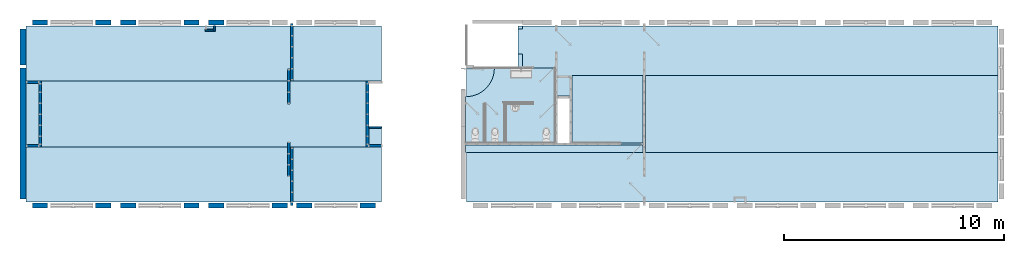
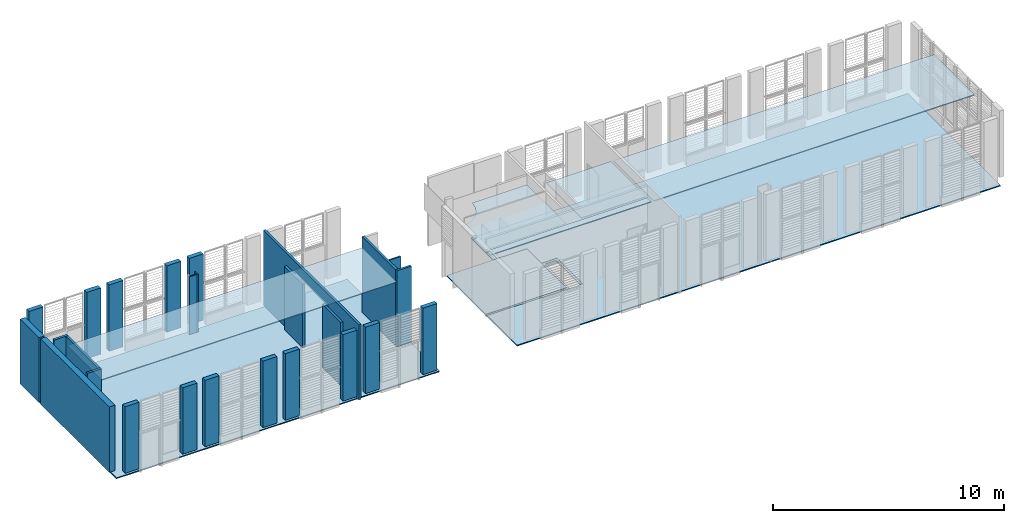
# One storey, part 3 of 8: 26 walls, 10 slabs, 2 openings.
"""IFC2X3 building model written with IfcOpenShell, lengths in metres."""

from ifc_helpers import new_model, entity, si_unit, converted_unit, derived_unit, direction, frame, frame_2d, origin, origin_2d_with_axis, place, context, subcontext, project, spatial, polyline, circle_curve, parameter, trimmed, segment, composite_curve, rectangle, outline, extrude, material, layer, layer_set, layer_usage, type_object, element, save


model = new_model("IFC2X3")

# Units and contexts
model_context = context("Model", 3, precision=1e-05, world=origin(), true_north=direction((6.12303176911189e-17, 1.0)))
body_context = subcontext(model_context, "Body", "Model", "MODEL_VIEW")
ifc_project = project(units=[si_unit("LENGTHUNIT", "METRE"), si_unit("AREAUNIT", "SQUARE_METRE"), si_unit("VOLUMEUNIT", "CUBIC_METRE"), converted_unit("PLANEANGLEUNIT", "DEGREE", entity("IfcRatioMeasure", 0.0174532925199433), si_unit("PLANEANGLEUNIT", "RADIAN"), dimensions=[0, 0, 0, 0, 0, 0, 0]), si_unit("MASSUNIT", "GRAM", prefix="KILO"), derived_unit("MASSDENSITYUNIT", [(si_unit("MASSUNIT", "GRAM", prefix="KILO"), 1), (si_unit("LENGTHUNIT", "METRE"), -3)]), si_unit("TIMEUNIT", "SECOND"), si_unit("FREQUENCYUNIT", "HERTZ"), si_unit("THERMODYNAMICTEMPERATUREUNIT", "DEGREE_CELSIUS"), derived_unit("THERMALTRANSMITTANCEUNIT", [(si_unit("MASSUNIT", "GRAM", prefix="KILO"), 1), (si_unit("THERMODYNAMICTEMPERATUREUNIT", "KELVIN"), -1), (si_unit("TIMEUNIT", "SECOND"), -3)]), derived_unit("VOLUMETRICFLOWRATEUNIT", [(si_unit("LENGTHUNIT", "METRE"), 3), (si_unit("TIMEUNIT", "SECOND"), -1)]), si_unit("ELECTRICCURRENTUNIT", "AMPERE"), si_unit("ELECTRICVOLTAGEUNIT", "VOLT"), si_unit("POWERUNIT", "WATT"), si_unit("FORCEUNIT", "NEWTON", prefix="KILO"), si_unit("ILLUMINANCEUNIT", "LUX"), si_unit("LUMINOUSFLUXUNIT", "LUMEN"), si_unit("LUMINOUSINTENSITYUNIT", "CANDELA"), derived_unit("USERDEFINED", [(si_unit("MASSUNIT", "GRAM", prefix="KILO"), -1), (si_unit("LENGTHUNIT", "METRE"), -2), (si_unit("TIMEUNIT", "SECOND"), 3), (si_unit("LUMINOUSFLUXUNIT", "LUMEN"), 1)]), derived_unit("LINEARVELOCITYUNIT", [(si_unit("LENGTHUNIT", "METRE"), 1), (si_unit("TIMEUNIT", "SECOND"), -1)]), si_unit("PRESSUREUNIT", "PASCAL"), derived_unit("USERDEFINED", [(si_unit("LENGTHUNIT", "METRE"), -2), (si_unit("MASSUNIT", "GRAM", prefix="KILO"), 1), (si_unit("TIMEUNIT", "SECOND"), -2)])], contexts=[model_context])

# Site, building, storey
site_placement = place(None, origin())
site = spatial("IfcSite", under=ifc_project, at=site_placement, Name="Surface", CompositionType="ELEMENT")
building_placement = place(site_placement, origin())
building = spatial("IfcBuilding", under=site, at=building_placement, Name="ExPREF", CompositionType="ELEMENT")
storey_placement = place(building_placement, origin())
storey = spatial("IfcBuildingStorey", under=building, at=storey_placement, Name="RDC", CompositionType="ELEMENT", Elevation=-6.89719131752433e-12)

# Slab, opening
ifc_material_1 = material(Name="AA-isolant plancher")
ifc_layer_1 = layer(ifc_material_1, 0.045)
ifc_layer_set_1 = layer_set([ifc_layer_1], Name="Sol:A-isolant 4.5 cm")
ifc_layer_usage_1 = layer_usage(ifc_layer_set_1, "AXIS3", "POSITIVE", 0.0)
slab_1_placement = place(storey_placement, frame((45.4197436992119, -193.209651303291, -0.0549999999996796)))
slab_1 = element("IfcSlab", 1, at=slab_1_placement, inside=storey, material=ifc_layer_usage_1, Name="Sol:A-isolant 4.5 cm", ObjectType="Sol:A-isolant 4.5 cm", PredefinedType="FLOOR", context=body_context, shape_type="SweptSolid", body=[
    extrude(outline(polyline([(-12.0699999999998, 4.00158152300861), (-12.0699999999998, -4.00158152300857), (12.0699999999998, -4.00158152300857), (12.0699999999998, 2.0915815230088), (9.73999999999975, 2.0915815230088), (9.73999999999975, 4.00158152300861), (-12.0699999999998, 4.00158152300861)])), frame((12.0699999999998, 4.00158152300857, 0.045), z_axis=(0.0, 0.0, -1.0), x_axis=(-1.0, 0.0, 0.0)), (0.0, 0.0, 1.0), 0.045),
])
opening_1_placement = place(slab_1_placement, frame((4.40000000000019, 3.5395407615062, 0.0449999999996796)))
element("IfcOpeningElement", 2, at=opening_1_placement, cuts=slab_1, Name="Sol:A-isolant 4.5 cm:2", ObjectType="Opening", context=body_context, shape_type="SweptSolid", body=[
    extrude(rectangle(XDim=2.35908152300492, YDim=0.555000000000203, at=origin_2d_with_axis()), frame((0.0, 0.0, 0.0), z_axis=(0.0, 0.0, -1.0), x_axis=(0.0, -1.0, 0.0)), (0.0, 0.0, 1.0), 0.045),
])

# Slabs
ifc_material_2 = material(Name="AA-sol souple")
ifc_layer_2 = layer(ifc_material_2, 0.01)
ifc_layer_set_2 = layer_set([ifc_layer_2], Name="Sol:A-sol souple")
ifc_layer_usage_2 = layer_usage(ifc_layer_set_2, "AXIS3", "POSITIVE", 0.0)
slab_2_placement = place(storey_placement, origin())
element("IfcSlab", 3, at=slab_2_placement, inside=storey, material=ifc_layer_usage_2, Name="Sol:A-sol souple", ObjectType="Sol:A-sol souple", PredefinedType="FLOOR", context=body_context, shape_type="SweptSolid", body=[
    extrude(outline(polyline([(-5.15940219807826, -5.7614285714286), (-2.57032051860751, -5.7614285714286), (-2.57032051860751, -0.978928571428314), (-0.332820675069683, -0.978928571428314), (-0.332820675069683, -1.74392857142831), (0.931260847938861, -1.74392857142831), (0.931260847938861, -3.23142857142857), (1.57876084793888, -3.23142857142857), (1.57876084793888, -3.43142857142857), (2.70876084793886, -3.43142857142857), (2.70876084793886, -3.23142857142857), (2.84376084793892, -3.23142857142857), (2.84376084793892, 18.3785714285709), (-5.15940219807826, 18.3785714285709), (-5.15940219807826, -5.7614285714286)])), frame((51.1811722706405, -188.050249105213, 0.0), z_axis=(0.0, 0.0, -1.0), x_axis=(0.0, 1.0, 0.0)), (0.0, 0.0, 1.0), 0.01),
])
ifc_layer_usage_3 = layer_usage(ifc_layer_set_1, "AXIS3", "POSITIVE", 0.0)
slab_3_placement = place(storey_placement, origin())
element("IfcSlab", 4, at=slab_3_placement, inside=storey, material=ifc_layer_usage_3, Name="Sol:A-isolant 4.5 cm", ObjectType="Sol:A-isolant 4.5 cm", PredefinedType="FLOOR", context=body_context, shape_type="SweptSolid", body=[
    extrude(outline(polyline([(-4.20633160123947, -11.9594999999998), (3.79683144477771, -11.9594999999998), (3.79683144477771, 4.18049999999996), (1.17925007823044, 4.18049999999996), (1.17925007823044, 3.59849999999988), (-0.769749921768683, 3.59849999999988), (-0.769749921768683, 4.18049999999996), (-4.20633160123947, 4.18049999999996), (-4.20633160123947, -11.9594999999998)])), frame((37.3792436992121, -189.003319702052, -0.01), z_axis=(0.0, 0.0, -1.0), x_axis=(0.0, 1.0, 0.0)), (0.0, 0.0, 1.0), 0.045),
])
ifc_layer_usage_4 = layer_usage(ifc_layer_set_2, "AXIS3", "POSITIVE", 0.0)
slab_4_placement = place(storey_placement, origin())
element("IfcSlab", 5, at=slab_4_placement, inside=storey, material=ifc_layer_usage_4, Name="Sol:A-sol souple", ObjectType="Sol:A-sol souple", PredefinedType="FLOOR", context=body_context, shape_type="SweptSolid", body=[
    extrude(outline(polyline([(-4.00158162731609, -8.06949999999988), (-1.49999994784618, -8.06949999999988), (-1.49999994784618, -7.37449999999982), (1.50000005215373, -7.37449999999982), (1.50000005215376, -8.06949999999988), (4.00158141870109, -8.06949999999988), (4.00158141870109, 8.07049999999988), (1.50000005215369, 8.07049999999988), (1.50000005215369, 7.37249999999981), (-1.49999994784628, 7.37249999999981), (-1.49999994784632, 8.07049999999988), (-4.00158162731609, 8.07049999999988), (-4.00158162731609, -8.06949999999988)])), frame((33.4892436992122, -189.208069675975, 0.0), z_axis=(0.0, 0.0, -1.0), x_axis=(0.0, 1.0, 0.0)), (0.0, 0.0, 1.0), 0.01),
])
ifc_material_3 = material(Name="AA-laine bois")
ifc_layer_3 = layer(ifc_material_3, 0.05)
ifc_layer_set_3 = layer_set([ifc_layer_3], Name="Sol:A-laine de bois 5cm")
ifc_layer_usage_5 = layer_usage(ifc_layer_set_3, "AXIS3", "POSITIVE", 0.0)
slab_5_placement = place(storey_placement, frame((26.1197436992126, -190.959651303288, 3.3700000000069)))
element("IfcSlab", 6, at=slab_5_placement, inside=storey, material=ifc_layer_usage_5, Name="Sol:A-laine de bois 5cm", ObjectType="Sol:A-laine de bois 5cm", PredefinedType="FLOOR", context=body_context, shape_type="SweptSolid", body=[
    extrude(rectangle(XDim=2.99000000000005, YDim=14.7419999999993, at=frame_2d((14.3489999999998, 0.000790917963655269), x_axis=(0.0, -1.0))), frame((21.7199999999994, 1.75079076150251, 0.0499999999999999), z_axis=(0.0, 0.0, -1.0), x_axis=(-1.0, 0.0, 0.0)), (0.0, 0.0, 1.0), 0.05),
])
slab_6_placement = place(storey_placement, frame((26.1197436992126, -190.959651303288, 3.3700000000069)))
element("IfcSlab", 7, at=slab_6_placement, inside=storey, material=ifc_layer_usage_5, Name="Sol:A-laine de bois 5cm:2", ObjectType="Sol:A-laine de bois 5cm", PredefinedType="FLOOR", context=body_context, shape_type="SweptSolid", body=[
    extrude(rectangle(XDim=3.50158152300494, YDim=16.0119999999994, at=frame_2d((-13.7139999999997, 0.0), x_axis=(0.0, -1.0))), frame((21.7199999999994, 1.75079076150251, 0.0499999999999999), z_axis=(0.0, 0.0, -1.0), x_axis=(-1.0, 0.0, 0.0)), (0.0, 0.0, 1.0), 0.05),
])
slab_7_placement = place(storey_placement, frame((26.1197436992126, -190.959651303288, 3.3700000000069)))
element("IfcSlab", 8, at=slab_7_placement, inside=storey, material=ifc_layer_usage_5, Name="Sol:A-laine de bois 5cm:3", ObjectType="Sol:A-laine de bois 5cm", PredefinedType="FLOOR", context=body_context, shape_type="SweptSolid", body=[
    extrude(rectangle(XDim=8.05200000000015, YDim=0.339081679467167, at=frame_2d((-1.56599999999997, -1.58124992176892), x_axis=(1.0, 0.0))), frame((21.7199999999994, 1.75079076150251, 0.0499999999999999), z_axis=(0.0, 0.0, -1.0), x_axis=(-1.0, 0.0, 0.0)), (0.0, 0.0, 1.0), 0.05),
])
slab_8_placement = place(storey_placement, frame((26.1197436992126, -190.959651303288, 3.3700000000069)))
element("IfcSlab", 9, at=slab_8_placement, inside=storey, material=ifc_layer_usage_5, Name="Sol:A-laine de bois 5cm:4", ObjectType="Sol:A-laine de bois 5cm", PredefinedType="FLOOR", context=body_context, shape_type="SweptSolid", body=[
    extrude(rectangle(XDim=3.05749984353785, YDim=3.22949999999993, at=frame_2d((-3.97725000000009, 0.222040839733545), x_axis=(0.0, -1.0))), frame((21.7199999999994, 1.75079076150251, 0.0499999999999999), z_axis=(0.0, 0.0, -1.0), x_axis=(-1.0, 0.0, 0.0)), (0.0, 0.0, 1.0), 0.05),
])
ifc_material_4 = material(Name="AA-fermacell peint")
ifc_layer_4 = layer(ifc_material_4, 0.0125)
ifc_layer_set_4 = layer_set([ifc_layer_4], Name="Sol:A-BA13 12.5mm")
ifc_layer_usage_6 = layer_usage(ifc_layer_set_4, "AXIS3", "POSITIVE", 0.0)
slab_9_placement = place(storey_placement, origin())
element("IfcSlab", 10, at=slab_9_placement, inside=storey, material=ifc_layer_usage_6, Name="Sol:A-BA13 12.5mm", ObjectType="Sol:A-BA13 12.5mm", PredefinedType="FLOOR", context=body_context, shape_type="SweptSolid", body=[
    extrude(outline(composite_curve([segment(polyline([(-1.77794881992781, -1.88300000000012), (0.318632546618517, -1.88300000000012)]), True, "CONTINUOUS"), segment(trimmed(circle_curve(frame_2d((1.61863254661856, -1.88300000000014), x_axis=(-1.0, 0.0)), 1.30000000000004), [parameter(270.000000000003)], [parameter(0.0)], True, "PARAMETER"), False, "CONTINUOUS"), segment(polyline([(1.61863254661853, -0.583000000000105), (1.61863254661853, 2.17450000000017)]), True, "CONTINUOUS"), segment(polyline([(1.61863254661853, 2.17450000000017), (-1.77794881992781, 2.17450000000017)]), True, "CONTINUOUS"), segment(polyline([(-1.77794881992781, 2.17450000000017), (-1.77794881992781, -1.88300000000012)]), True, "CONTINUOUS")], self_intersect=False)), frame((47.2627436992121, -188.737620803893, 3.3825000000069), z_axis=(0.0, 0.0, -1.0), x_axis=(0.0, 1.0, 0.0)), (0.0, 0.0, 1.0), 0.0124999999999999),
])
ifc_material_5 = material(Name="AA-sol carrelage")
ifc_layer_5 = layer(ifc_material_5, 0.01)
ifc_layer_set_5 = layer_set([ifc_layer_5], Name="Sol:A-carrelage sol")
ifc_layer_usage_7 = layer_usage(ifc_layer_set_5, "AXIS3", "POSITIVE", 0.0)
slab_10_placement = place(storey_placement, origin())
element("IfcSlab", 11, at=slab_10_placement, inside=storey, material=ifc_layer_usage_7, Name="Sol:A-carrelage sol", ObjectType="Sol:A-carrelage sol", PredefinedType="FLOOR", context=body_context, shape_type="SweptSolid", body=[
    extrude(rectangle(XDim=3.39658136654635, YDim=4.0175000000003, at=frame_2d((0.0, -4.44089209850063e-15), x_axis=(1.0, 0.0))), frame((47.4284936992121, -188.817278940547, 0.0), z_axis=(0.0, 0.0, -1.0), x_axis=(0.0, 1.0, 0.0)), (0.0, 0.0, 1.0), 0.01),
])

# Walls
ifc_material_6 = material(Name="AA-mur cloison finition")
ifc_layer_6 = layer(ifc_material_6, 0.018)
ifc_layer_7 = layer(ifc_material_1, 0.08)
ifc_layer_8 = layer(ifc_material_6, 0.018)
ifc_layer_set_6 = layer_set([ifc_layer_6, ifc_layer_7, ifc_layer_8], Name="Mur de base:A-cloison CP 11.6 cm")
ifc_layer_usage_8 = layer_usage(ifc_layer_set_6, "AXIS2", "NEGATIVE", 0.058)
wall_type_1 = type_object("IfcWallType", Name="Mur de base:A-cloison CP 11.6 cm", PredefinedType="STANDARD", material=ifc_layer_set_6)
wall_1_placement = place(storey_placement, frame((26.1177436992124, -190.650069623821, -0.01), z_axis=(0.0, 0.0, 1.0), x_axis=(-1.0, 0.0, 0.0)))
element("IfcWallStandardCase", 12, at=wall_1_placement, inside=storey, type_object=wall_type_1, material=ifc_layer_usage_8, Name="Mur de base:A-cloison CP 11.6 cm", ObjectType="Mur de base:A-cloison CP 11.6 cm", context=body_context, shape_type="SweptSolid", body=[
    extrude(rectangle(XDim=0.698000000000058, YDim=0.115999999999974, at=frame_2d((0.349000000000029, 0.0), x_axis=(-1.0, 0.0))), origin(), (0.0, 0.0, 1.0), 4.00999999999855),
])
ifc_layer_usage_9 = layer_usage(ifc_layer_set_6, "AXIS2", "NEGATIVE", 0.058)
wall_2_placement = place(storey_placement, frame((26.1177436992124, -187.766069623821, -0.01), z_axis=(0.0, 0.0, 1.0), x_axis=(-1.0, 0.0, 0.0)))
element("IfcWallStandardCase", 13, at=wall_2_placement, inside=storey, type_object=wall_type_1, material=ifc_layer_usage_9, Name="Mur de base:A-cloison CP 11.6 cm", ObjectType="Mur de base:A-cloison CP 11.6 cm", context=body_context, shape_type="SweptSolid", body=[
    extrude(rectangle(XDim=0.698000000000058, YDim=0.115999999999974, at=frame_2d((0.349000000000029, 0.0), x_axis=(-1.0, 0.0))), origin(), (0.0, 0.0, 1.0), 4.0200000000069),
])
ifc_layer_usage_10 = layer_usage(ifc_layer_set_6, "AXIS2", "POSITIVE", -0.058)
wall_3_placement = place(storey_placement, frame((40.861743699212, -190.650069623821, 0.0)))
element("IfcWallStandardCase", 14, at=wall_3_placement, inside=storey, type_object=wall_type_1, material=ifc_layer_usage_10, Name="Mur de base:A-cloison CP 11.6 cm", ObjectType="Mur de base:A-cloison CP 11.6 cm", context=body_context, shape_type="SweptSolid", body=[
    extrude(rectangle(XDim=0.737999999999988, YDim=0.115999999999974, at=frame_2d((0.368999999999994, 0.0), x_axis=(-1.0, 0.0))), origin(), (0.0, 0.0, 1.0), 4.0000000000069),
])
ifc_layer_usage_11 = layer_usage(ifc_layer_set_6, "AXIS2", "POSITIVE", -0.058)
wall_4_placement = place(storey_placement, frame((40.919743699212, -187.708069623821, -0.01), z_axis=(0.0, 0.0, 1.0), x_axis=(0.0, -1.0, 0.0)))
element("IfcWallStandardCase", 15, at=wall_4_placement, inside=storey, type_object=wall_type_1, material=ifc_layer_usage_11, Name="Mur de base:A-cloison CP 11.6 cm", ObjectType="Mur de base:A-cloison CP 11.6 cm", context=body_context, shape_type="SweptSolid", body=[
    extrude(rectangle(XDim=2.884, YDim=0.116000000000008, at=frame_2d((1.442, 0.0), x_axis=(-1.0, 0.0))), origin(), (0.0, 0.0, 1.0), 4.0200000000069),
])
ifc_layer_usage_12 = layer_usage(ifc_layer_set_6, "AXIS2", "NEGATIVE", 0.058)
wall_5_placement = place(storey_placement, frame((26.0597436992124, -187.824069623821, -0.01), z_axis=(0.0, 0.0, 1.0), x_axis=(0.0, -1.0, 0.0)))
element("IfcWallStandardCase", 16, at=wall_5_placement, inside=storey, type_object=wall_type_1, material=ifc_layer_usage_12, Name="Mur de base:A-cloison CP 11.6 cm", ObjectType="Mur de base:A-cloison CP 11.6 cm", context=body_context, shape_type="SweptSolid", body=[
    extrude(rectangle(XDim=2.76799999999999, YDim=0.116, at=frame_2d((1.384, 0.0), x_axis=(-1.0, 0.0))), origin(), (0.0, 0.0, 1.0), 4.0200000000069),
])

# Wall, opening
ifc_layer_usage_13 = layer_usage(ifc_layer_set_6, "AXIS2", "POSITIVE", -0.058)
wall_6_placement = place(storey_placement, frame((37.4897436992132, -185.106488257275, 0.0), z_axis=(0.0, 0.0, 1.0), x_axis=(0.0, -1.0, 0.0)))
wall_6 = element("IfcWallStandardCase", 17, at=wall_6_placement, inside=storey, type_object=wall_type_1, material=ifc_layer_usage_13, Name="Mur de base:A-cloison CP 11.6 cm", ObjectType="Mur de base:A-cloison CP 11.6 cm", context=body_context, shape_type="SweptSolid", body=[
    extrude(rectangle(XDim=8.25316304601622, YDim=0.116, at=frame_2d((4.12658152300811, 5.20417042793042e-17), x_axis=(-1.0, 0.0))), origin(), (0.0, 0.0, 1.0), 3.9600000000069),
])
opening_2_placement = place(wall_6_placement, frame((5.60158136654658, -1.582, 0.0), z_axis=(0.0, 0.0, 1.0), x_axis=(0.0, 1.0, 0.0)))
element("IfcOpeningElement", 18, at=opening_2_placement, cuts=wall_6, Name="Mur de base:A-cloison CP 11.6 cm", ObjectType="Opening", context=body_context, shape_type="SweptSolid", body=[
    extrude(rectangle(XDim=3.36999999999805, YDim=3.00000000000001, at=frame_2d((-3.33066907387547e-16, 0.0), x_axis=(1.0, 0.0))), frame((0.0, 1.50000000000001, 1.68499999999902), z_axis=(1.0, 0.0, 0.0), x_axis=(0.0, 0.0, 1.0)), (0.0, 0.0, 1.0), 3.048),
])

# Walls
ifc_layer_usage_14 = layer_usage(ifc_layer_set_6, "AXIS2", "NEGATIVE", 0.058)
wall_7_placement = place(storey_placement, frame((37.3462379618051, -187.168069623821, 0.0200000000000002), z_axis=(0.0, 0.0, 1.0), x_axis=(0.0, -1.0, 0.0)))
element("IfcWallStandardCase", 19, at=wall_7_placement, inside=storey, type_object=wall_type_1, material=ifc_layer_usage_14, Name="Mur de base:A-cloison CP 11.6 cm", ObjectType="Mur de base:A-cloison CP 11.6 cm", context=body_context, shape_type="SweptSolid", body=[
    extrude(rectangle(XDim=1.5800000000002, YDim=0.116, at=frame_2d((0.790000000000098, 0.0), x_axis=(-1.0, 0.0))), origin(), (0.0, 0.0, 1.0), 3.33),
])
ifc_layer_usage_15 = layer_usage(ifc_layer_set_6, "AXIS2", "POSITIVE", -0.058)
wall_8_placement = place(storey_placement, frame((37.3462379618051, -192.048069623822, 0.0200000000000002), z_axis=(0.0, 0.0, 1.0), x_axis=(0.0, 1.0, 0.0)))
element("IfcWallStandardCase", 20, at=wall_8_placement, inside=storey, type_object=wall_type_1, material=ifc_layer_usage_15, Name="Mur de base:A-cloison CP 11.6 cm", ObjectType="Mur de base:A-cloison CP 11.6 cm", context=body_context, shape_type="SweptSolid", body=[
    extrude(rectangle(XDim=1.5800000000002, YDim=0.116, at=frame_2d((0.790000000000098, 7.52869988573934e-16), x_axis=(-1.0, 0.0))), origin(), (0.0, 0.0, 1.0), 3.33),
])
ifc_layer_9 = layer(ifc_material_4, 0.0125)
ifc_layer_10 = layer(ifc_material_1, 0.045)
ifc_layer_11 = layer(ifc_material_4, 0.0125)
ifc_layer_set_7 = layer_set([ifc_layer_9, ifc_layer_10, ifc_layer_11], Name="Mur de base:Générique - Int. 70 mm")
ifc_layer_usage_16 = layer_usage(ifc_layer_set_7, "AXIS2", "POSITIVE", -0.035)
wall_type_2 = type_object("IfcWallType", Name="Mur de base:Générique - Int. 70 mm", PredefinedType="STANDARD", material=ifc_layer_set_7)
wall_9_placement = place(storey_placement, frame((40.977743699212, -189.80806962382, 0.0)))
element("IfcWallStandardCase", 21, at=wall_9_placement, inside=storey, type_object=wall_type_2, material=ifc_layer_usage_16, Name="Mur de base:Générique - Int. 70 mm", ObjectType="Mur de base:Générique - Int. 70 mm", context=body_context, shape_type="SweptSolid", body=[
    extrude(rectangle(XDim=0.582000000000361, YDim=0.0700000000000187, at=frame_2d((0.291000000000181, 0.0), x_axis=(-1.0, 0.0))), origin(), (0.0, 0.0, 1.0), 4.0000000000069),
])
ifc_layer_usage_17 = layer_usage(ifc_layer_set_7, "AXIS2", "NEGATIVE", 0.035)
wall_10_placement = place(storey_placement, frame((33.9647432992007, -185.20648794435, 0.0), z_axis=(0.0, 0.0, 1.0), x_axis=(0.0, -1.0, 0.0)))
element("IfcWallStandardCase", 22, at=wall_10_placement, inside=storey, type_object=wall_type_2, material=ifc_layer_usage_17, Name="Mur de base:Générique - Int. 70 mm", ObjectType="Mur de base:Générique - Int. 70 mm", context=body_context, shape_type="SweptSolid", body=[
    extrude(rectangle(XDim=0.229999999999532, YDim=0.0700000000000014, at=frame_2d((0.114999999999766, 0.0), x_axis=(-1.0, 0.0))), origin(), (0.0, 0.0, 1.0), 3.05),
])
ifc_layer_usage_18 = layer_usage(ifc_layer_set_7, "AXIS2", "NEGATIVE", 0.035)
wall_11_placement = place(storey_placement, frame((33.5597436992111, -185.401487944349, 0.0)))
element("IfcWallStandardCase", 23, at=wall_11_placement, inside=storey, type_object=wall_type_2, material=ifc_layer_usage_18, Name="Mur de base:Générique - Int. 70 mm", ObjectType="Mur de base:Générique - Int. 70 mm", context=body_context, shape_type="SweptSolid", body=[
    extrude(rectangle(XDim=0.369999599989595, YDim=0.0700000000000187, at=frame_2d((0.184999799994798, 0.0), x_axis=(-1.0, 0.0))), origin(), (0.0, 0.0, 1.0), 3.05),
])
ifc_material_7 = material(Name="AA-BTC")
ifc_layer_12 = layer(ifc_material_7, 0.22)
ifc_layer_set_8 = layer_set([ifc_layer_12], Name="Mur de base:A-prémur BTC")
ifc_layer_usage_19 = layer_usage(ifc_layer_set_8, "AXIS2", "POSITIVE", -0.11)
wall_type_3 = type_object("IfcWallType", Name="Mur de base:A-prémur BTC", PredefinedType="STANDARD", material=ifc_layer_set_8)
wall_12_placement = place(storey_placement, frame((41.2797436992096, -193.359651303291, 0.300000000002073), z_axis=(0.0, 0.0, 1.0), x_axis=(-1.0, 0.0, 0.0)))
element("IfcWallStandardCase", 24, at=wall_12_placement, inside=storey, type_object=wall_type_3, material=ifc_layer_usage_19, Name="Mur de base:A-prémur BTC", ObjectType="Mur de base:A-prémur BTC", context=body_context, shape_type="SweptSolid", body=[
    extrude(rectangle(XDim=0.699999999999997, YDim=0.220000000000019, at=frame_2d((0.349999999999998, 0.0), x_axis=(-1.0, 0.0))), origin(), (0.0, 0.0, 1.0), 3.51000000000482),
])
ifc_layer_usage_20 = layer_usage(ifc_layer_set_8, "AXIS2", "POSITIVE", -0.11)
wall_13_placement = place(storey_placement, frame((37.2797436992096, -193.359651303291, 0.300000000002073), z_axis=(0.0, 0.0, 1.0), x_axis=(-1.0, 0.0, 0.0)))
element("IfcWallStandardCase", 25, at=wall_13_placement, inside=storey, type_object=wall_type_3, material=ifc_layer_usage_20, Name="Mur de base:A-prémur BTC", ObjectType="Mur de base:A-prémur BTC", context=body_context, shape_type="SweptSolid", body=[
    extrude(rectangle(XDim=0.700000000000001, YDim=0.220000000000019, at=frame_2d((0.350000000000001, 0.0), x_axis=(-1.0, 0.0))), origin(), (0.0, 0.0, 1.0), 3.51000000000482),
])
ifc_layer_usage_21 = layer_usage(ifc_layer_set_8, "AXIS2", "POSITIVE", -0.11)
wall_14_placement = place(storey_placement, frame((33.2797436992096, -193.359651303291, 0.300000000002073), z_axis=(0.0, 0.0, 1.0), x_axis=(-1.0, 0.0, 0.0)))
element("IfcWallStandardCase", 26, at=wall_14_placement, inside=storey, type_object=wall_type_3, material=ifc_layer_usage_21, Name="Mur de base:A-prémur BTC", ObjectType="Mur de base:A-prémur BTC", context=body_context, shape_type="SweptSolid", body=[
    extrude(rectangle(XDim=0.700000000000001, YDim=0.220000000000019, at=frame_2d((0.350000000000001, 0.0), x_axis=(-1.0, 0.0))), origin(), (0.0, 0.0, 1.0), 3.51000000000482),
])
ifc_layer_usage_22 = layer_usage(ifc_layer_set_8, "AXIS2", "POSITIVE", -0.11)
wall_15_placement = place(storey_placement, frame((29.2797436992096, -193.359651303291, 0.300000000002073), z_axis=(0.0, 0.0, 1.0), x_axis=(-1.0, 0.0, 0.0)))
element("IfcWallStandardCase", 27, at=wall_15_placement, inside=storey, type_object=wall_type_3, material=ifc_layer_usage_22, Name="Mur de base:A-prémur BTC", ObjectType="Mur de base:A-prémur BTC", context=body_context, shape_type="SweptSolid", body=[
    extrude(rectangle(XDim=0.700000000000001, YDim=0.220000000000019, at=frame_2d((0.350000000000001, 0.0), x_axis=(-1.0, 0.0))), origin(), (0.0, 0.0, 1.0), 3.51000000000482),
])
ifc_layer_usage_23 = layer_usage(ifc_layer_set_8, "AXIS2", "NEGATIVE", 0.11)
wall_16_placement = place(storey_placement, frame((33.2797436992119, -185.056487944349, 0.300000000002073), z_axis=(0.0, 0.0, 1.0), x_axis=(-1.0, 0.0, 0.0)))
element("IfcWallStandardCase", 28, at=wall_16_placement, inside=storey, type_object=wall_type_3, material=ifc_layer_usage_23, Name="Mur de base:A-prémur BTC", ObjectType="Mur de base:A-prémur BTC", context=body_context, shape_type="SweptSolid", body=[
    extrude(rectangle(XDim=0.700000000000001, YDim=0.220000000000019, at=frame_2d((0.350000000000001, -2.13024042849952e-15), x_axis=(-1.0, 0.0))), origin(), (0.0, 0.0, 1.0), 3.51000000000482),
])
ifc_layer_usage_24 = layer_usage(ifc_layer_set_8, "AXIS2", "NEGATIVE", 0.11)
wall_17_placement = place(storey_placement, frame((29.2797436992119, -185.056487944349, 0.300000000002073), z_axis=(0.0, 0.0, 1.0), x_axis=(-1.0, 0.0, 0.0)))
element("IfcWallStandardCase", 29, at=wall_17_placement, inside=storey, type_object=wall_type_3, material=ifc_layer_usage_24, Name="Mur de base:A-prémur BTC", ObjectType="Mur de base:A-prémur BTC", context=body_context, shape_type="SweptSolid", body=[
    extrude(rectangle(XDim=0.700000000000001, YDim=0.220000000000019, at=frame_2d((0.350000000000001, -2.13024042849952e-15), x_axis=(-1.0, 0.0))), origin(), (0.0, 0.0, 1.0), 3.51000000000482),
])
ifc_layer_usage_25 = layer_usage(ifc_layer_set_8, "AXIS2", "NEGATIVE", 0.11)
wall_18_placement = place(storey_placement, frame((25.6997436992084, -193.359651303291, 0.300000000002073)))
element("IfcWallStandardCase", 30, at=wall_18_placement, inside=storey, type_object=wall_type_3, material=ifc_layer_usage_25, Name="Mur de base:A-prémur BTC", ObjectType="Mur de base:A-prémur BTC", context=body_context, shape_type="SweptSolid", body=[
    extrude(rectangle(XDim=0.700000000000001, YDim=0.220000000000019, at=frame_2d((0.350000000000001, 0.0), x_axis=(-1.0, 0.0))), origin(), (0.0, 0.0, 1.0), 3.51000000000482),
])
ifc_layer_usage_26 = layer_usage(ifc_layer_set_8, "AXIS2", "NEGATIVE", 0.11)
wall_19_placement = place(storey_placement, frame((37.6997436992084, -193.359651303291, 0.300000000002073)))
element("IfcWallStandardCase", 31, at=wall_19_placement, inside=storey, type_object=wall_type_3, material=ifc_layer_usage_26, Name="Mur de base:A-prémur BTC", ObjectType="Mur de base:A-prémur BTC", context=body_context, shape_type="SweptSolid", body=[
    extrude(rectangle(XDim=0.700000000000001, YDim=0.220000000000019, at=frame_2d((0.350000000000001, 0.0), x_axis=(-1.0, 0.0))), origin(), (0.0, 0.0, 1.0), 3.51000000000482),
])
ifc_layer_usage_27 = layer_usage(ifc_layer_set_8, "AXIS2", "NEGATIVE", 0.11)
wall_20_placement = place(storey_placement, frame((33.6997436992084, -193.359651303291, 0.300000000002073)))
element("IfcWallStandardCase", 32, at=wall_20_placement, inside=storey, type_object=wall_type_3, material=ifc_layer_usage_27, Name="Mur de base:A-prémur BTC", ObjectType="Mur de base:A-prémur BTC", context=body_context, shape_type="SweptSolid", body=[
    extrude(rectangle(XDim=0.700000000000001, YDim=0.220000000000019, at=frame_2d((0.350000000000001, 0.0), x_axis=(-1.0, 0.0))), origin(), (0.0, 0.0, 1.0), 3.51000000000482),
])
ifc_layer_usage_28 = layer_usage(ifc_layer_set_8, "AXIS2", "NEGATIVE", 0.11)
wall_21_placement = place(storey_placement, frame((29.6997436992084, -193.359651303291, 0.300000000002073)))
element("IfcWallStandardCase", 33, at=wall_21_placement, inside=storey, type_object=wall_type_3, material=ifc_layer_usage_28, Name="Mur de base:A-prémur BTC", ObjectType="Mur de base:A-prémur BTC", context=body_context, shape_type="SweptSolid", body=[
    extrude(rectangle(XDim=0.700000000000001, YDim=0.220000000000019, at=frame_2d((0.350000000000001, 0.0), x_axis=(-1.0, 0.0))), origin(), (0.0, 0.0, 1.0), 3.51000000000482),
])
ifc_layer_usage_29 = layer_usage(ifc_layer_set_8, "AXIS2", "POSITIVE", -0.11)
wall_22_placement = place(storey_placement, frame((33.6997436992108, -185.056487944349, 0.300000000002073)))
element("IfcWallStandardCase", 34, at=wall_22_placement, inside=storey, type_object=wall_type_3, material=ifc_layer_usage_29, Name="Mur de base:A-prémur BTC", ObjectType="Mur de base:A-prémur BTC", context=body_context, shape_type="SweptSolid", body=[
    extrude(rectangle(XDim=0.700000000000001, YDim=0.220000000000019, at=frame_2d((0.350000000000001, -2.13024042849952e-15), x_axis=(-1.0, 0.0))), origin(), (0.0, 0.0, 1.0), 3.51000000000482),
])
ifc_layer_usage_30 = layer_usage(ifc_layer_set_8, "AXIS2", "POSITIVE", -0.11)
wall_23_placement = place(storey_placement, frame((29.6997436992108, -185.056487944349, 0.300000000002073)))
element("IfcWallStandardCase", 35, at=wall_23_placement, inside=storey, type_object=wall_type_3, material=ifc_layer_usage_30, Name="Mur de base:A-prémur BTC", ObjectType="Mur de base:A-prémur BTC", context=body_context, shape_type="SweptSolid", body=[
    extrude(rectangle(XDim=0.700000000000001, YDim=0.220000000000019, at=frame_2d((0.350000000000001, -2.13024042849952e-15), x_axis=(-1.0, 0.0))), origin(), (0.0, 0.0, 1.0), 3.51000000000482),
])
ifc_layer_usage_31 = layer_usage(ifc_layer_set_8, "AXIS2", "POSITIVE", -0.11)
wall_24_placement = place(storey_placement, frame((25.6997436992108, -185.056487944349, 0.300000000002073)))
element("IfcWallStandardCase", 36, at=wall_24_placement, inside=storey, type_object=wall_type_3, material=ifc_layer_usage_31, Name="Mur de base:A-prémur BTC", ObjectType="Mur de base:A-prémur BTC", context=body_context, shape_type="SweptSolid", body=[
    extrude(rectangle(XDim=0.700000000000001, YDim=0.220000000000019, at=frame_2d((0.350000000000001, -2.13024042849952e-15), x_axis=(-1.0, 0.0))), origin(), (0.0, 0.0, 1.0), 3.51000000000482),
])
ifc_layer_13 = layer(ifc_material_7, 0.22)
ifc_material_8 = material(Name="AA-air")
ifc_layer_14 = layer(ifc_material_8, 0.025)
ifc_layer_15 = layer(ifc_material_1, 0.02)
ifc_layer_16 = layer(ifc_material_4, 0.013)
ifc_layer_set_9 = layer_set([ifc_layer_13, ifc_layer_14, ifc_layer_15, ifc_layer_16], Name="Mur de base:A-mur BTC + iso + BA13")
ifc_layer_usage_32 = layer_usage(ifc_layer_set_9, "AXIS2", "POSITIVE", -0.139)
wall_type_4 = type_object("IfcWallType", Name="Mur de base:A-mur BTC + iso + BA13", PredefinedType="STANDARD", material=ifc_layer_set_9)
wall_25_placement = place(storey_placement, frame((25.2807436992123, -185.346488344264, 0.3), z_axis=(0.0, 0.0, 1.0), x_axis=(0.0, -1.0, 0.0)))
element("IfcWallStandardCase", 37, at=wall_25_placement, inside=storey, type_object=wall_type_4, material=ifc_layer_usage_32, Name="Mur de base:A-mur BTC + iso + BA13", ObjectType="Mur de base:A-mur BTC + iso + BA13", context=body_context, shape_type="SweptSolid", body=[
    extrude(rectangle(XDim=1.62999991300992, YDim=0.277999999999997, at=frame_2d((0.814999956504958, 0.0), x_axis=(-1.0, 0.0))), origin(), (0.0, 0.0, 1.0), 3.4200000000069),
])
ifc_layer_usage_33 = layer_usage(ifc_layer_set_9, "AXIS2", "POSITIVE", -0.139)
wall_26_placement = place(storey_placement, frame((25.2807436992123, -187.116488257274, 0.3), z_axis=(0.0, 0.0, 1.0), x_axis=(0.0, -1.0, 0.0)))
element("IfcWallStandardCase", 38, at=wall_26_placement, inside=storey, type_object=wall_type_4, material=ifc_layer_usage_33, Name="Mur de base:A-mur BTC + iso + BA13", ObjectType="Mur de base:A-mur BTC + iso + BA13", context=body_context, shape_type="SweptSolid", body=[
    extrude(rectangle(XDim=5.95316304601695, YDim=0.277999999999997, at=frame_2d((2.97658152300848, 0.0), x_axis=(-1.0, 0.0))), origin(), (0.0, 0.0, 1.0), 3.4600000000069),
])

save(model, "model.ifc")
